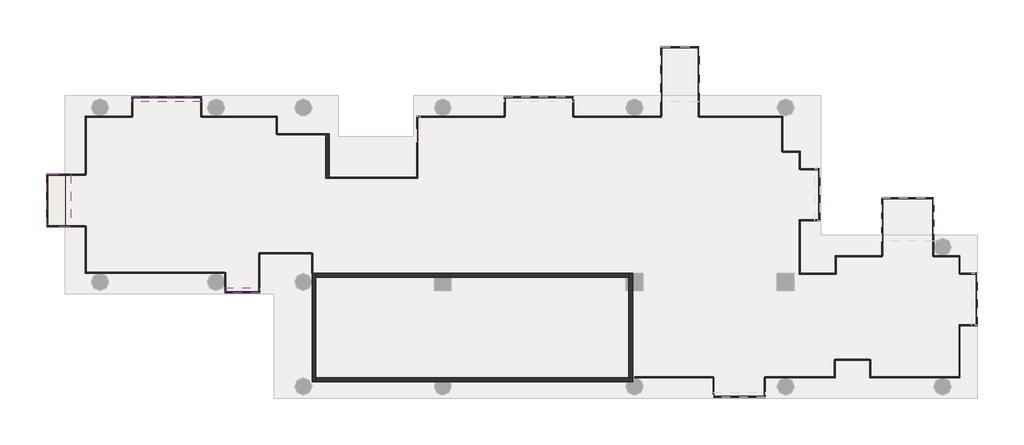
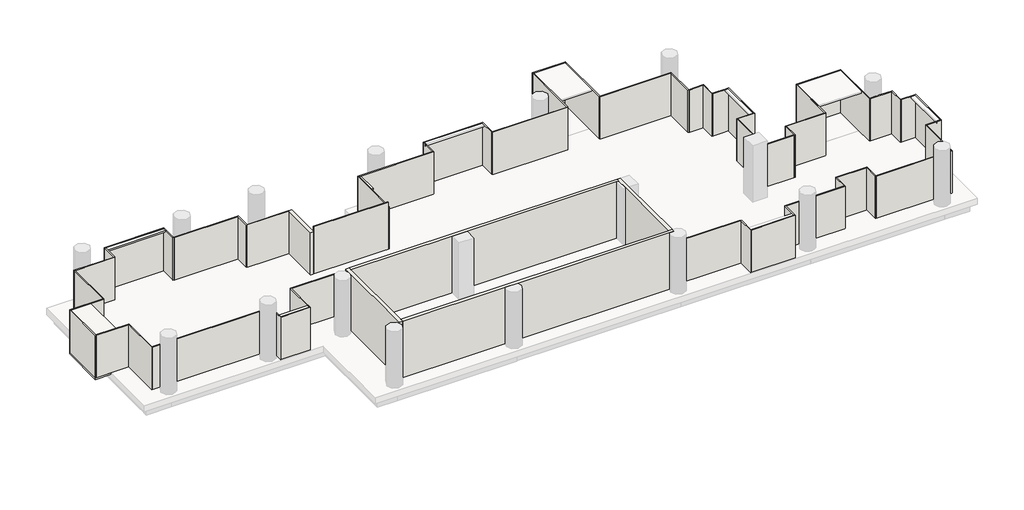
# One storey, part 1 of 2: 62 walls, 5 slabs.
"""IFC4 building model written with IfcOpenShell, lengths in millimetres."""

from ifc_helpers import new_model, si_unit, frame, origin, place, context, project, spatial, polyline, outline, extrude, faceted_brep, element, save

model = new_model("IFC4")

# Units and contexts
model_context = context("Model", 3, world=origin())
ifc_project = project(units=[si_unit("LENGTHUNIT", "METRE", prefix="MILLI")], contexts=[model_context])

# Site, building, storey
site = spatial("IfcSite", under=ifc_project)
building = spatial("IfcBuilding", under=site)
storey = spatial("IfcBuildingStorey", under=building, Name="TW-L 09", Elevation=31599.9999686)

# Slabs
placement = place(None, origin())
element("IfcSlab", 1, ObjectType="AJN-ARC-SLAB-10cm", at=placement, inside=storey, context=model_context, shape_type="SweptSolid", body=[
    extrude(outline(polyline([(100300.0, 33150.0), (99347.1743518, 33150.0), (99347.1743518, 35850.0), (100300.0, 35850.0), (100300.0, 33150.0)])), frame((0.0, 0.0, 31499.9999686), z_axis=(0.0, 0.0, 1.0), x_axis=(1.0, 0.0, 0.0)), (0.0, 0.0, 1.0), 100.0),
])
element("IfcSlab", 2, ObjectType="AJN-ARC-SLAB-10cm", at=placement, inside=storey, context=model_context, shape_type="SweptSolid", body=[
    extrude(outline(polyline([(100600.0, 33150.0), (99347.1743518, 33150.0), (99347.1743518, 35850.0), (100600.0, 35850.0), (100600.0, 33150.0)])), frame((0.0, 0.0, 34199.9999686), z_axis=(0.0, 0.0, 1.0), x_axis=(1.0, 0.0, 0.0)), (0.0, 0.0, 1.0), 100.0),
])
element("IfcSlab", 3, ObjectType="AJN-ARC-SLAB-10cm", at=placement, inside=storey, context=model_context, shape_type="SweptSolid", body=[
    extrude(outline(polyline([(107350.0, 39600.0), (103750.0, 39600.0), (103750.0, 39850.0), (107350.0, 39850.0), (107350.0, 39600.0)])), frame((0.0, 0.0, 34199.9999686), z_axis=(0.0, 0.0, 1.0), x_axis=(1.0, 0.0, 0.0)), (0.0, 0.0, 1.0), 100.0),
])
element("IfcSlab", 4, ObjectType="AJN-ARC-SLAB-10cm", at=placement, inside=storey, context=model_context, shape_type="SweptSolid", body=[
    extrude(outline(polyline([(110347.1743518, 29750.0), (108547.1743518, 29750.0), (108547.1743518, 30000.0), (110347.1743518, 30000.0), (110347.1743518, 29750.0)])), frame((0.0, 0.0, 34199.9999686), z_axis=(0.0, 0.0, 1.0), x_axis=(1.0, 0.0, 0.0)), (0.0, 0.0, 1.0), 100.0),
])
element("IfcSlab", 5, ObjectType="AJN-ARC-SLAB-10cm", at=placement, inside=storey, context=model_context, shape_type="SweptSolid", body=[
    extrude(outline(polyline([(118600.0, 37500.0), (118450.0, 37500.0), (118450.0, 38850.0), (118600.0, 38850.0), (118600.0, 37500.0)])), frame((0.0, 0.0, 34199.9999686), z_axis=(0.0, 0.0, 1.0), x_axis=(1.0, 0.0, 0.0)), (0.0, 0.0, 1.0), 100.0),
])

# Walls
element("IfcWall", 6, ObjectType="AJN-ARC-CONCRETE WALL-20cm", at=placement, inside=storey, context=model_context, shape_type="Brep", body=[
    faceted_brep([(113050.0, 30750.0, 35199.9999686), (113050.0, 30750.0, 31599.9999686), (113050.0, 25150.0, 31599.9999686), (113050.0, 25150.0, 35199.9999686), (113250.0, 30750.0, 31599.9999686), (113250.0, 30750.0, 35199.9999686), (113250.0, 30550.0, 35199.9999686), (113250.0, 25350.0, 35199.9999686), (113250.0, 25150.0, 35199.9999686), (113250.0, 25150.0, 31599.9999686), (113250.0, 25350.0, 31599.9999686), (113250.0, 30550.0, 31599.9999686), (113097.1743518, 30750.0, 31599.9999686)], [[[0, 1, 2, 3]], [[4, 5, 6, 7, 8, 9, 10, 11]], [[2, 1, 12, 4, 11, 10, 9]], [[0, 3, 8, 7, 6, 5]], [[3, 2, 9, 8]], [[0, 5, 4, 12, 1]]]),
])
element("IfcWall", 7, ObjectType="AJN-ARC-CONCRETE WALL-20cm", at=placement, inside=storey, context=model_context, shape_type="Brep", body=[
    faceted_brep([(113250.0, 25150.0, 31599.9999686), (119425.8342613, 25150.0, 31599.9999686), (120174.1657387, 25150.0, 31599.9999686), (129325.8342613, 25150.0, 31599.9999686), (129600.0, 25150.0, 31599.9999686), (129600.0, 25150.0, 35199.9999686), (129325.8342613, 25150.0, 35199.9999686), (120174.1657387, 25150.0, 35199.9999686), (119425.8342613, 25150.0, 35199.9999686), (113250.0, 25150.0, 35199.9999686), (113250.0, 25350.0, 31599.9999686), (113250.0, 25350.0, 35199.9999686), (129400.0, 25350.0, 35199.9999686), (129600.0, 25350.0, 35199.9999686), (129600.0, 25350.0, 31599.9999686), (129400.0, 25350.0, 31599.9999686), (129600.0, 25338.7482194, 31599.9999686), (129600.0, 25338.7482194, 35199.9999686)], [[[0, 1, 2, 3, 4, 5, 6, 7, 8, 9]], [[10, 11, 12, 13, 14, 15]], [[4, 3, 2, 1, 0, 10, 15, 14, 16]], [[9, 8, 7, 6, 5, 17, 13, 12, 11]], [[5, 4, 16, 14, 13, 17]], [[0, 9, 11, 10]]]),
])
element("IfcWall", 8, ObjectType="AJN-ARC-CONCRETE WALL-20cm", at=placement, inside=storey, context=model_context, shape_type="Brep", body=[
    faceted_brep([(129600.0, 25350.0, 31599.9999686), (129600.0, 29850.0, 31599.9999686), (129600.0, 30750.0, 31599.9999686), (129600.0, 30750.0, 35199.9999686), (129600.0, 29850.0, 35199.9999686), (129600.0, 25350.0, 35199.9999686), (129400.0, 25350.0, 31599.9999686), (129400.0, 25350.0, 35199.9999686), (129400.0, 29850.0, 35199.9999686), (129400.0, 30550.0, 35199.9999686), (129400.0, 30750.0, 35199.9999686), (129400.0, 30750.0, 31599.9999686), (129400.0, 30550.0, 31599.9999686), (129400.0, 29850.0, 31599.9999686)], [[[0, 1, 2, 3, 4, 5]], [[6, 7, 8, 9, 10, 11, 12, 13]], [[2, 1, 0, 6, 13, 12, 11]], [[5, 4, 3, 10, 9, 8, 7]], [[3, 2, 11, 10]], [[0, 5, 7, 6]]]),
])
element("IfcWall", 9, ObjectType="AJN-ARC-CONCRETE WALL-20cm", at=placement, inside=storey, context=model_context, shape_type="Brep", body=[
    faceted_brep([(129400.0, 30750.0, 31599.9999686), (113250.0, 30750.0, 31599.9999686), (113250.0, 30750.0, 35199.9999686), (129400.0, 30750.0, 35199.9999686), (129400.0, 30550.0, 31599.9999686), (129400.0, 30550.0, 35199.9999686), (129250.0, 30550.0, 35199.9999686), (120250.0, 30550.0, 35199.9999686), (119350.0, 30550.0, 35199.9999686), (113250.0, 30550.0, 35199.9999686), (113250.0, 30550.0, 31599.9999686), (119350.0, 30550.0, 31599.9999686), (120250.0, 30550.0, 31599.9999686), (129250.0, 30550.0, 31599.9999686)], [[[0, 1, 2, 3]], [[4, 5, 6, 7, 8, 9, 10, 11, 12, 13]], [[1, 0, 4, 13, 12, 11, 10]], [[3, 2, 9, 8, 7, 6, 5]], [[0, 3, 5, 4]], [[1, 10, 9, 2]]]),
])
element("IfcWall", 10, ObjectType="AJN-ARC-CONCRETE WALL-20cm", at=placement, inside=storey, context=model_context, shape_type="Brep", body=[
    faceted_brep([(113950.0, 35650.0, 31599.9999686), (113950.0, 37950.0, 31599.9999686), (113950.0, 37950.0, 34299.9999686), (113950.0, 35650.0, 34299.9999686), (113750.0, 35650.0, 31599.9999686), (113750.0, 35650.0, 34299.9999686), (113750.0, 37900.0, 34299.9999686), (113750.0, 37950.0, 34299.9999686), (113750.0, 37950.0, 31599.9999686), (113750.0, 37900.0, 31599.9999686)], [[[0, 1, 2, 3]], [[4, 5, 6, 7, 8, 9]], [[1, 0, 4, 9, 8]], [[3, 2, 7, 6, 5]], [[0, 3, 5, 4]], [[2, 1, 8, 7]]]),
])
element("IfcWall", 11, ObjectType="AJN-ARC-GLASS-50mm", at=placement, inside=storey, context=model_context, shape_type="SweptSolid", body=[
    extrude(outline(polyline([(111250.0, 37950.0), (113750.0, 37950.0), (113750.0, 37900.0), (111250.0, 37900.0), (111250.0, 37950.0)])), frame((0.0, 0.0, 31599.9999686), z_axis=(0.0, 0.0, 1.0), x_axis=(1.0, 0.0, 0.0)), (0.0, 0.0, 1.0), 2700.0),
])
element("IfcWall", 12, ObjectType="AJN-ARC-GLASS-50mm", at=placement, inside=storey, context=model_context, shape_type="Brep", body=[
    faceted_brep([(111250.0, 37925.0, 31599.9999686), (111250.0, 38850.0003404, 31599.9999686), (111250.0, 38850.0003404, 34299.9999686), (111250.0, 37925.0, 34299.9999686), (111200.0, 37925.0, 31599.9999686), (111200.0, 37925.0, 34299.9999686), (111200.0, 38800.000336, 34299.9999686), (111200.0, 38850.000336, 34299.9999686), (111200.0, 38850.000336, 31599.9999686), (111200.0, 38800.000336, 31599.9999686)], [[[0, 1, 2, 3]], [[4, 5, 6, 7, 8, 9]], [[1, 0, 4, 9, 8]], [[3, 2, 7, 6, 5]], [[0, 3, 5, 4]], [[2, 1, 8, 7]]]),
])
element("IfcWall", 13, ObjectType="AJN-ARC-GLASS-50mm", at=placement, inside=storey, context=model_context, shape_type="SweptSolid", body=[
    extrude(outline(polyline([(107350.0, 38850.0), (111200.0, 38850.000336), (111200.0, 38800.000336), (107350.0000044, 38800.0), (107350.0, 38850.0)])), frame((0.0, 0.0, 31599.9999686), z_axis=(0.0, 0.0, 1.0), x_axis=(1.0, 0.0, 0.0)), (0.0, 0.0, 1.0), 2700.0),
])
element("IfcWall", 14, ObjectType="AJN-ARC-GLASS-50mm", at=placement, inside=storey, context=model_context, shape_type="Brep", body=[
    faceted_brep([(107350.0, 38824.9999978, 31599.9999686), (107350.0, 39850.0, 31599.9999686), (107350.0, 39850.0, 34299.9999686), (107350.0, 38824.9999978, 34299.9999686), (107300.0, 38824.9999978, 31599.9999686), (107300.0, 38824.9999978, 34299.9999686), (107300.0, 39800.0, 34299.9999686), (107300.0, 39850.0, 34299.9999686), (107300.0, 39850.0, 31599.9999686), (107300.0, 39800.0, 31599.9999686)], [[[0, 1, 2, 3]], [[4, 5, 6, 7, 8, 9]], [[1, 0, 4, 9, 8]], [[3, 2, 7, 6, 5]], [[0, 3, 5, 4]], [[2, 1, 8, 7]]]),
])
element("IfcWall", 15, ObjectType="AJN-ARC-GLASS-50mm", at=placement, inside=storey, context=model_context, shape_type="Brep", body=[
    faceted_brep([(107300.0, 39850.0, 31599.9999686), (103750.0, 39850.0, 31599.9999686), (103750.0, 39850.0, 34299.9999686), (107300.0, 39850.0, 34299.9999686), (107300.0, 39800.0, 31599.9999686), (107300.0, 39800.0, 34299.9999686), (103800.0, 39800.0, 34299.9999686), (103750.0, 39800.0, 34299.9999686), (103750.0, 39800.0, 31599.9999686), (103800.0, 39800.0, 31599.9999686)], [[[0, 1, 2, 3]], [[4, 5, 6, 7, 8, 9]], [[1, 0, 4, 9, 8]], [[3, 2, 7, 6, 5]], [[2, 1, 8, 7]], [[0, 3, 5, 4]]]),
])
element("IfcWall", 16, ObjectType="AJN-ARC-GLASS-50mm", at=placement, inside=storey, context=model_context, shape_type="SweptSolid", body=[
    extrude(outline(polyline([(103750.0, 38850.0), (103750.0, 39800.0), (103800.0, 39800.0), (103800.0, 38850.0), (103750.0, 38850.0)])), frame((0.0, 0.0, 31599.9999686), z_axis=(0.0, 0.0, 1.0), x_axis=(1.0, 0.0, 0.0)), (0.0, 0.0, 1.0), 2700.0),
])
element("IfcWall", 17, ObjectType="AJN-ARC-GLASS-50mm", at=placement, inside=storey, context=model_context, shape_type="Brep", body=[
    faceted_brep([(103775.000012, 38849.999988, 31599.9999686), (101347.1743518, 38850.001152, 31599.9999686), (101347.1743518, 38850.001152, 34299.9999686), (103775.000012, 38849.999988, 34299.9999686), (103774.999988, 38799.999988, 31599.9999686), (103774.999988, 38799.999988, 34299.9999686), (101397.1743518, 38800.001128, 34299.9999686), (101347.1743518, 38800.001152, 34299.9999686), (101347.1743518, 38800.001152, 31599.9999686), (101397.1743518, 38800.001128, 31599.9999686)], [[[0, 1, 2, 3]], [[4, 5, 6, 7, 8, 9]], [[1, 0, 4, 9, 8]], [[3, 2, 7, 6, 5]], [[0, 3, 5, 4]], [[2, 1, 8, 7]]]),
])
element("IfcWall", 18, ObjectType="AJN-ARC-GLASS-50mm", at=placement, inside=storey, context=model_context, shape_type="SweptSolid", body=[
    extrude(outline(polyline([(101347.1743518, 35850.0), (101347.1743518, 38800.001152), (101397.1743518, 38800.001128), (101397.1743518, 35850.0), (101347.1743518, 35850.0)])), frame((0.0, 0.0, 31599.9999686), z_axis=(0.0, 0.0, 1.0), x_axis=(1.0, 0.0, 0.0)), (0.0, 0.0, 1.0), 2700.0),
])
element("IfcWall", 19, ObjectType="AJN-ARC-GLASS-50mm", at=placement, inside=storey, context=model_context, shape_type="Brep", body=[
    faceted_brep([(101372.1743518, 35850.0, 31599.9999686), (99347.1743518, 35850.0, 31599.9999686), (99347.1743518, 35850.0, 34299.9999686), (101372.1743518, 35850.0, 34299.9999686), (101372.1743518, 35800.0, 31599.9999686), (101372.1743518, 35800.0, 34299.9999686), (99397.1743518, 35800.0, 34299.9999686), (99347.1743518, 35800.0, 34299.9999686), (99347.1743518, 35800.0, 31599.9999686), (99397.1743518, 35800.0, 31599.9999686)], [[[0, 1, 2, 3]], [[4, 5, 6, 7, 8, 9]], [[1, 0, 4, 9, 8]], [[3, 2, 7, 6, 5]], [[0, 3, 5, 4]], [[2, 1, 8, 7]]]),
])
element("IfcWall", 20, ObjectType="AJN-ARC-GLASS-50mm", at=placement, inside=storey, context=model_context, shape_type="Brep", body=[
    faceted_brep([(99347.1743518, 35800.0, 31599.9999686), (99347.1743518, 33150.0, 31599.9999686), (99347.1743518, 33150.0, 34299.9999686), (99347.1743518, 35800.0, 34299.9999686), (99397.1743518, 35800.0, 31599.9999686), (99397.1743518, 35800.0, 34299.9999686), (99397.1743518, 33200.0, 34299.9999686), (99397.1743518, 33150.0, 34299.9999686), (99397.1743518, 33150.0, 31599.9999686), (99397.1743518, 33200.0, 31599.9999686)], [[[0, 1, 2, 3]], [[4, 5, 6, 7, 8, 9]], [[1, 0, 4, 9, 8]], [[3, 2, 7, 6, 5]], [[2, 1, 8, 7]], [[0, 3, 5, 4]]]),
])
element("IfcWall", 21, ObjectType="AJN-ARC-GLASS-50mm", at=placement, inside=storey, context=model_context, shape_type="SweptSolid", body=[
    extrude(outline(polyline([(101347.1743518, 33150.0), (99397.1743518, 33150.0), (99397.1743518, 33200.0), (101347.1743518, 33200.0), (101347.1743518, 33150.0)])), frame((0.0, 0.0, 31599.9999686), z_axis=(0.0, 0.0, 1.0), x_axis=(1.0, 0.0, 0.0)), (0.0, 0.0, 1.0), 2700.0),
])
element("IfcWall", 22, ObjectType="AJN-ARC-GLASS-50mm", at=placement, inside=storey, context=model_context, shape_type="Brep", body=[
    faceted_brep([(101347.1743518, 33175.0, 31599.9999686), (101347.1743518, 30750.0, 31599.9999686), (101347.1743518, 30750.0, 34299.9999686), (101347.1743518, 33175.0, 34299.9999686), (101397.1743518, 33175.0, 31599.9999686), (101397.1743518, 33175.0, 34299.9999686), (101397.1743518, 30800.0, 34299.9999686), (101397.1743518, 30750.0, 34299.9999686), (101397.1743518, 30750.0, 31599.9999686), (101397.1743518, 30800.0, 31599.9999686)], [[[0, 1, 2, 3]], [[4, 5, 6, 7, 8, 9]], [[1, 0, 4, 9, 8]], [[3, 2, 7, 6, 5]], [[0, 3, 5, 4]], [[2, 1, 8, 7]]]),
])
element("IfcWall", 23, ObjectType="AJN-ARC-GLASS-50mm", at=placement, inside=storey, context=model_context, shape_type="SweptSolid", body=[
    extrude(outline(polyline([(108547.1743518, 30750.0), (101397.1743518, 30750.0), (101397.1743518, 30800.0), (108547.1743518, 30800.0), (108547.1743518, 30750.0)])), frame((0.0, 0.0, 31599.9999686), z_axis=(0.0, 0.0, 1.0), x_axis=(1.0, 0.0, 0.0)), (0.0, 0.0, 1.0), 2700.0),
])
element("IfcWall", 24, ObjectType="AJN-ARC-GLASS-50mm", at=placement, inside=storey, context=model_context, shape_type="Brep", body=[
    faceted_brep([(108547.1743518, 30775.0, 31599.9999686), (108547.1743518, 30350.3497671, 31599.9999686), (108547.1743518, 30249.6502329, 31599.9999686), (108547.1743518, 29750.0, 31599.9999686), (108547.1743518, 29750.0, 34299.9999686), (108547.1743518, 30249.6502329, 34299.9999686), (108547.1743518, 30350.3497671, 34299.9999686), (108547.1743518, 30775.0, 34299.9999686), (108597.1743518, 30775.0, 31599.9999686), (108597.1743518, 30775.0, 34299.9999686), (108597.1743518, 29800.0, 34299.9999686), (108597.1743518, 29750.0, 34299.9999686), (108597.1743518, 29750.0, 31599.9999686), (108597.1743518, 29800.0, 31599.9999686)], [[[0, 1, 2, 3, 4, 5, 6, 7]], [[8, 9, 10, 11, 12, 13]], [[3, 2, 1, 0, 8, 13, 12]], [[7, 6, 5, 4, 11, 10, 9]], [[0, 7, 9, 8]], [[4, 3, 12, 11]]]),
])
element("IfcWall", 25, ObjectType="AJN-ARC-GLASS-50mm", at=placement, inside=storey, context=model_context, shape_type="Brep", body=[
    faceted_brep([(108597.1743518, 29750.0, 31599.9999686), (110347.1743518, 29750.0, 31599.9999686), (110347.1743518, 29750.0, 34299.9999686), (108597.1743518, 29750.0, 34299.9999686), (108597.1743518, 29800.0, 31599.9999686), (108597.1743518, 29800.0, 34299.9999686), (110297.1743518, 29800.0, 34299.9999686), (110347.1743518, 29800.0, 34299.9999686), (110347.1743518, 29800.0, 31599.9999686), (110297.1743518, 29800.0, 31599.9999686)], [[[0, 1, 2, 3]], [[4, 5, 6, 7, 8, 9]], [[1, 0, 4, 9, 8]], [[3, 2, 7, 6, 5]], [[2, 1, 8, 7]], [[0, 3, 5, 4]]]),
])
element("IfcWall", 26, ObjectType="AJN-ARC-GLASS-50mm", at=placement, inside=storey, context=model_context, shape_type="SweptSolid", body=[
    extrude(outline(polyline([(110347.1743518, 31750.0), (110347.1743518, 29800.0), (110297.1743518, 29800.0), (110297.1743518, 31750.0), (110347.1743518, 31750.0)])), frame((0.0, 0.0, 31599.9999686), z_axis=(0.0, 0.0, 1.0), x_axis=(1.0, 0.0, 0.0)), (0.0, 0.0, 1.0), 2700.0),
])
element("IfcWall", 27, ObjectType="AJN-ARC-GLASS-50mm", at=placement, inside=storey, context=model_context, shape_type="SweptSolid", body=[
    extrude(outline(polyline([(113047.1743518, 31750.0), (110322.1743518, 31750.0), (110322.1743518, 31800.0), (113047.1743518, 31800.0), (113047.1743518, 31750.0)])), frame((0.0, 0.0, 31599.9999686), z_axis=(0.0, 0.0, 1.0), x_axis=(1.0, 0.0, 0.0)), (0.0, 0.0, 1.0), 2700.0),
])
element("IfcWall", 28, ObjectType="AJN-ARC-GLASS-50mm", at=placement, inside=storey, context=model_context, shape_type="Brep", body=[
    faceted_brep([(113047.1743518, 31775.0, 31599.9999686), (113047.1743518, 30750.0, 31599.9999686), (113047.1743518, 30750.0, 34299.9999686), (113047.1743518, 31775.0, 34299.9999686), (113097.1743518, 31775.0, 31599.9999686), (113097.1743518, 31775.0, 34299.9999686), (113097.1743518, 30750.0, 34299.9999686), (113097.1743518, 30750.0, 31599.9999686), (113050.0, 30750.0, 31599.9999686)], [[[0, 1, 2, 3]], [[4, 5, 6, 7]], [[1, 0, 4, 7, 8]], [[3, 2, 6, 5]], [[0, 3, 5, 4]], [[2, 1, 8, 7, 6]]]),
])
element("IfcWall", 29, ObjectType="AJN-ARC-GLASS-50mm", at=placement, inside=storey, context=model_context, shape_type="Brep", body=[
    faceted_brep([(138250.0, 30700.0, 31599.9999686), (138250.0, 30750.0, 31599.9999686), (138250.0, 33450.0, 31599.9999686), (138250.0, 33450.0, 34299.9999686), (138250.0, 30750.0, 34299.9999686), (138250.0, 30700.0, 34299.9999686), (138200.0, 30700.0, 31599.9999686), (138200.0, 30700.0, 34299.9999686), (138200.0, 33450.0, 34299.9999686), (138200.0, 33450.0, 31599.9999686)], [[[0, 1, 2, 3, 4, 5]], [[6, 7, 8, 9]], [[2, 1, 0, 6, 9]], [[5, 4, 3, 8, 7]], [[0, 5, 7, 6]], [[3, 2, 9, 8]]]),
])
element("IfcWall", 30, ObjectType="AJN-ARC-GLASS-50mm", at=placement, inside=storey, context=model_context, shape_type="Brep", body=[
    faceted_brep([(138200.0, 33450.0, 31599.9999686), (138250.0, 33450.0, 31599.9999686), (139250.0, 33450.0, 31599.9999686), (139250.0, 33450.0, 34299.9999686), (138250.0, 33450.0, 34299.9999686), (138200.0, 33450.0, 34299.9999686), (138200.0, 33500.0, 31599.9999686), (138200.0, 33500.0, 34299.9999686), (139200.0, 33500.0, 34299.9999686), (139250.0, 33500.0, 34299.9999686), (139250.0, 33500.0, 31599.9999686), (139200.0, 33500.0, 31599.9999686)], [[[0, 1, 2, 3, 4, 5]], [[6, 7, 8, 9, 10, 11]], [[2, 1, 0, 6, 11, 10]], [[5, 4, 3, 9, 8, 7]], [[3, 2, 10, 9]], [[0, 5, 7, 6]]]),
])
element("IfcWall", 31, ObjectType="AJN-ARC-GLASS-50mm", at=placement, inside=storey, context=model_context, shape_type="Brep", body=[
    faceted_brep([(139250.0, 33500.0, 31599.9999686), (139250.0, 36150.0, 31599.9999686), (139250.0, 36150.0, 34299.9999686), (139250.0, 33500.0, 34299.9999686), (139200.0, 33500.0, 31599.9999686), (139200.0, 33500.0, 34299.9999686), (139200.0, 36100.0, 34299.9999686), (139200.0, 36150.0, 34299.9999686), (139200.0, 36150.0, 31599.9999686), (139200.0, 36100.0, 31599.9999686)], [[[0, 1, 2, 3]], [[4, 5, 6, 7, 8, 9]], [[1, 0, 4, 9, 8]], [[3, 2, 7, 6, 5]], [[2, 1, 8, 7]], [[0, 3, 5, 4]]]),
])
element("IfcWall", 32, ObjectType="AJN-ARC-GLASS-50mm", at=placement, inside=storey, context=model_context, shape_type="SweptSolid", body=[
    extrude(outline(polyline([(138250.0, 36150.0), (139200.0, 36150.0), (139200.0, 36100.0), (138250.0, 36100.0), (138250.0, 36150.0)])), frame((0.0, 0.0, 31599.9999686), z_axis=(0.0, 0.0, 1.0), x_axis=(1.0, 0.0, 0.0)), (0.0, 0.0, 1.0), 2700.0),
])
element("IfcWall", 33, ObjectType="AJN-ARC-GLASS-50mm", at=placement, inside=storey, context=model_context, shape_type="Brep", body=[
    faceted_brep([(138250.0, 36125.0, 31599.9999686), (138250.0, 37050.0, 31599.9999686), (138250.0, 37050.0, 34299.9999686), (138250.0, 36125.0, 34299.9999686), (138200.0, 36125.0, 31599.9999686), (138200.0, 36125.0, 34299.9999686), (138200.0, 37000.0, 34299.9999686), (138200.0, 37050.0, 34299.9999686), (138200.0, 37050.0, 31599.9999686), (138200.0, 37000.0, 31599.9999686)], [[[0, 1, 2, 3]], [[4, 5, 6, 7, 8, 9]], [[1, 0, 4, 9, 8]], [[3, 2, 7, 6, 5]], [[0, 3, 5, 4]], [[2, 1, 8, 7]]]),
])
element("IfcWall", 34, ObjectType="AJN-ARC-GLASS-50mm", at=placement, inside=storey, context=model_context, shape_type="SweptSolid", body=[
    extrude(outline(polyline([(137350.0, 37050.0), (138200.0, 37050.0), (138200.0, 37000.0), (137350.0, 37000.0), (137350.0, 37050.0)])), frame((0.0, 0.0, 31599.9999686), z_axis=(0.0, 0.0, 1.0), x_axis=(1.0, 0.0, 0.0)), (0.0, 0.0, 1.0), 2700.0),
])
element("IfcWall", 35, ObjectType="AJN-ARC-GLASS-50mm", at=placement, inside=storey, context=model_context, shape_type="Brep", body=[
    faceted_brep([(137350.0, 37025.0, 31599.9999686), (137350.0, 38850.0, 31599.9999686), (137350.0, 38850.0, 34299.9999686), (137350.0, 37025.0, 34299.9999686), (137300.0, 37025.0, 31599.9999686), (137300.0, 37025.0, 34299.9999686), (137300.0, 38800.0, 34299.9999686), (137300.0, 38850.0, 34299.9999686), (137300.0, 38850.0, 31599.9999686), (137300.0, 38800.0, 31599.9999686)], [[[0, 1, 2, 3]], [[4, 5, 6, 7, 8, 9]], [[1, 0, 4, 9, 8]], [[3, 2, 7, 6, 5]], [[0, 3, 5, 4]], [[2, 1, 8, 7]]]),
])
element("IfcWall", 36, ObjectType="AJN-ARC-GLASS-50mm", at=placement, inside=storey, context=model_context, shape_type="SweptSolid", body=[
    extrude(outline(polyline([(133050.0, 38850.0), (137300.0, 38850.0), (137300.0, 38800.0), (133050.0, 38800.0), (133050.0, 38850.0)])), frame((0.0, 0.0, 31599.9999686), z_axis=(0.0, 0.0, 1.0), x_axis=(1.0, 0.0, 0.0)), (0.0, 0.0, 1.0), 2700.0),
])
element("IfcWall", 37, ObjectType="AJN-ARC-GLASS-50mm", at=placement, inside=storey, context=model_context, shape_type="Brep", body=[
    faceted_brep([(133050.0, 38825.0, 31599.9999686), (133050.0, 42450.0, 31599.9999686), (133050.0, 42450.0, 34299.9999686), (133050.0, 38825.0, 34299.9999686), (133000.0, 38825.0, 31599.9999686), (133000.0, 38825.0, 34299.9999686), (133000.0, 42400.0, 34299.9999686), (133000.0, 42450.0, 34299.9999686), (133000.0, 42450.0, 31599.9999686), (133000.0, 42400.0, 31599.9999686)], [[[0, 1, 2, 3]], [[4, 5, 6, 7, 8, 9]], [[1, 0, 4, 9, 8]], [[3, 2, 7, 6, 5]], [[0, 3, 5, 4]], [[2, 1, 8, 7]]]),
])
element("IfcWall", 38, ObjectType="AJN-ARC-GLASS-50mm", at=placement, inside=storey, context=model_context, shape_type="Brep", body=[
    faceted_brep([(133000.0, 42450.0, 31599.9999686), (131050.0, 42450.0, 31599.9999686), (131050.0, 42450.0, 34299.9999686), (133000.0, 42450.0, 34299.9999686), (133000.0, 42400.0, 31599.9999686), (133000.0, 42400.0, 34299.9999686), (131100.0, 42400.0, 34299.9999686), (131050.0, 42400.0, 34299.9999686), (131050.0, 42400.0, 31599.9999686), (131100.0, 42400.0, 31599.9999686)], [[[0, 1, 2, 3]], [[4, 5, 6, 7, 8, 9]], [[1, 0, 4, 9, 8]], [[3, 2, 7, 6, 5]], [[2, 1, 8, 7]], [[0, 3, 5, 4]]]),
])
element("IfcWall", 39, ObjectType="AJN-ARC-GLASS-50mm", at=placement, inside=storey, context=model_context, shape_type="SweptSolid", body=[
    extrude(outline(polyline([(131050.0, 38850.0), (131050.0, 42400.0), (131100.0, 42400.0), (131100.0, 38850.0), (131050.0, 38850.0)])), frame((0.0, 0.0, 31599.9999686), z_axis=(0.0, 0.0, 1.0), x_axis=(1.0, 0.0, 0.0)), (0.0, 0.0, 1.0), 2700.0),
])
element("IfcWall", 40, ObjectType="AJN-ARC-GLASS-50mm", at=placement, inside=storey, context=model_context, shape_type="SweptSolid", body=[
    extrude(outline(polyline([(126563.0639015, 38850.0), (131075.0, 38850.0), (131075.0, 38800.0), (126563.0639015, 38800.0), (126563.0639015, 38850.0)])), frame((0.0, 0.0, 31599.9999686), z_axis=(0.0, 0.0, 1.0), x_axis=(1.0, 0.0, 0.0)), (0.0, 0.0, 1.0), 2700.0),
])
element("IfcWall", 41, ObjectType="AJN-ARC-GLASS-50mm", at=placement, inside=storey, context=model_context, shape_type="Brep", body=[
    faceted_brep([(126563.0639015, 38825.0, 31599.9999686), (126563.0639015, 39850.0, 31599.9999686), (126563.0639015, 39850.0, 34299.9999686), (126563.0639015, 38825.0, 34299.9999686), (126513.0639015, 38825.0, 31599.9999686), (126513.0639015, 38825.0, 34299.9999686), (126513.0639015, 39800.0, 34299.9999686), (126513.0639015, 39850.0, 34299.9999686), (126513.0639015, 39850.0, 31599.9999686), (126513.0639015, 39800.0, 31599.9999686)], [[[0, 1, 2, 3]], [[4, 5, 6, 7, 8, 9]], [[1, 0, 4, 9, 8]], [[3, 2, 7, 6, 5]], [[0, 3, 5, 4]], [[2, 1, 8, 7]]]),
])
element("IfcWall", 42, ObjectType="AJN-ARC-GLASS-50mm", at=placement, inside=storey, context=model_context, shape_type="Brep", body=[
    faceted_brep([(126513.0639015, 39850.0, 31599.9999686), (122963.0639015, 39850.0, 31599.9999686), (122963.0639015, 39850.0, 34299.9999686), (126513.0639015, 39850.0, 34299.9999686), (126513.0639015, 39800.0, 31599.9999686), (126513.0639015, 39800.0, 34299.9999686), (123013.0639015, 39800.0, 34299.9999686), (122963.0639015, 39800.0, 34299.9999686), (122963.0639015, 39800.0, 31599.9999686), (123013.0639015, 39800.0, 31599.9999686)], [[[0, 1, 2, 3]], [[4, 5, 6, 7, 8, 9]], [[1, 0, 4, 9, 8]], [[3, 2, 7, 6, 5]], [[2, 1, 8, 7]], [[0, 3, 5, 4]]]),
])
element("IfcWall", 43, ObjectType="AJN-ARC-GLASS-50mm", at=placement, inside=storey, context=model_context, shape_type="SweptSolid", body=[
    extrude(outline(polyline([(122963.0639015, 38850.0), (122963.0639015, 39800.0), (123013.0639015, 39800.0), (123013.0639015, 38850.0), (122963.0639015, 38850.0)])), frame((0.0, 0.0, 31599.9999686), z_axis=(0.0, 0.0, 1.0), x_axis=(1.0, 0.0, 0.0)), (0.0, 0.0, 1.0), 2700.0),
])
element("IfcWall", 44, ObjectType="AJN-ARC-GLASS-50mm", at=placement, inside=storey, context=model_context, shape_type="Brep", body=[
    faceted_brep([(122988.0639015, 38850.0, 31599.9999686), (118450.0, 38850.0, 31599.9999686), (118450.0, 38850.0, 34299.9999686), (122988.0639015, 38850.0, 34299.9999686), (122988.0639015, 38800.0, 31599.9999686), (122988.0639015, 38800.0, 34299.9999686), (118500.0, 38800.0, 34299.9999686), (118450.0, 38800.0, 34299.9999686), (118450.0, 38800.0, 31599.9999686), (118500.0, 38800.0, 31599.9999686)], [[[0, 1, 2, 3]], [[4, 5, 6, 7, 8, 9]], [[1, 0, 4, 9, 8]], [[3, 2, 7, 6, 5]], [[0, 3, 5, 4]], [[2, 1, 8, 7]]]),
])
element("IfcWall", 45, ObjectType="AJN-ARC-GLASS-50mm", at=placement, inside=storey, context=model_context, shape_type="SweptSolid", body=[
    extrude(outline(polyline([(133750.3417807, 25350.0), (129714.068817, 25350.0), (129714.068817, 25400.0), (133750.3417807, 25400.0), (133750.3417807, 25350.0)])), frame((0.0, 0.0, 31599.9999686), z_axis=(0.0, 0.0, 1.0), x_axis=(1.0, 0.0, 0.0)), (0.0, 0.0, 1.0), 2700.0),
])
element("IfcWall", 46, ObjectType="AJN-ARC-GLASS-50mm", at=placement, inside=storey, context=model_context, shape_type="Brep", body=[
    faceted_brep([(133750.3417807, 25375.0, 31599.9999686), (133750.3417807, 24350.0, 31599.9999686), (133750.3417807, 24350.0, 34299.9999686), (133750.3417807, 25375.0, 34299.9999686), (133800.3417807, 25375.0, 31599.9999686), (133800.3417807, 25375.0, 34299.9999686), (133800.3417807, 24400.0, 34299.9999686), (133800.3417807, 24350.0, 34299.9999686), (133800.3417807, 24350.0, 31599.9999686), (133800.3417807, 24400.0, 31599.9999686)], [[[0, 1, 2, 3]], [[4, 5, 6, 7, 8, 9]], [[1, 0, 4, 9, 8]], [[3, 2, 7, 6, 5]], [[0, 3, 5, 4]], [[2, 1, 8, 7]]]),
])
element("IfcWall", 47, ObjectType="AJN-ARC-GLASS-50mm", at=placement, inside=storey, context=model_context, shape_type="Brep", body=[
    faceted_brep([(133800.3417807, 24350.0, 31599.9999686), (136450.3417807, 24350.0, 31599.9999686), (136450.3417807, 24350.0, 34299.9999686), (133800.3417807, 24350.0, 34299.9999686), (133800.3417807, 24400.0, 31599.9999686), (133800.3417807, 24400.0, 34299.9999686), (136400.3417807, 24400.0, 34299.9999686), (136450.3417807, 24400.0, 34299.9999686), (136450.3417807, 24400.0, 31599.9999686), (136400.3417807, 24400.0, 31599.9999686)], [[[0, 1, 2, 3]], [[4, 5, 6, 7, 8, 9]], [[1, 0, 4, 9, 8]], [[3, 2, 7, 6, 5]], [[2, 1, 8, 7]], [[0, 3, 5, 4]]]),
])
element("IfcWall", 48, ObjectType="AJN-ARC-GLASS-50mm", at=placement, inside=storey, context=model_context, shape_type="SweptSolid", body=[
    extrude(outline(polyline([(136450.3417807, 25350.0), (136450.3417807, 24400.0), (136400.3417807, 24400.0), (136400.3417807, 25350.0), (136450.3417807, 25350.0)])), frame((0.0, 0.0, 31599.9999686), z_axis=(0.0, 0.0, 1.0), x_axis=(1.0, 0.0, 0.0)), (0.0, 0.0, 1.0), 2700.0),
])
element("IfcWall", 49, ObjectType="AJN-ARC-GLASS-50mm", at=placement, inside=storey, context=model_context, shape_type="Brep", body=[
    faceted_brep([(136425.3417807, 25350.0, 31599.9999686), (140050.1695387, 25350.0, 31599.9999686), (140050.1695387, 25350.0, 34299.9999686), (136425.3417807, 25350.0, 34299.9999686), (136425.3417807, 25400.0, 31599.9999686), (136425.3417807, 25400.0, 34299.9999686), (140000.1695387, 25400.0, 34299.9999686), (140050.1695387, 25400.0, 34299.9999686), (140050.1695387, 25400.0, 31599.9999686), (140000.1695387, 25400.0, 31599.9999686)], [[[0, 1, 2, 3]], [[4, 5, 6, 7, 8, 9]], [[1, 0, 4, 9, 8]], [[3, 2, 7, 6, 5]], [[0, 3, 5, 4]], [[2, 1, 8, 7]]]),
])
element("IfcWall", 50, ObjectType="AJN-ARC-GLASS-50mm", at=placement, inside=storey, context=model_context, shape_type="SweptSolid", body=[
    extrude(outline(polyline([(140050.1695387, 26250.0), (140050.1695387, 25400.0), (140000.1695387, 25400.0), (140000.1695387, 26250.0), (140050.1695387, 26250.0)])), frame((0.0, 0.0, 31599.9999686), z_axis=(0.0, 0.0, 1.0), x_axis=(1.0, 0.0, 0.0)), (0.0, 0.0, 1.0), 2700.0),
])
element("IfcWall", 51, ObjectType="AJN-ARC-GLASS-50mm", at=placement, inside=storey, context=model_context, shape_type="SweptSolid", body=[
    extrude(outline(polyline([(141850.1695387, 26250.0), (140025.1695387, 26250.0), (140025.1695387, 26300.0), (141850.1695387, 26300.0), (141850.1695387, 26250.0)])), frame((0.0, 0.0, 31599.9999686), z_axis=(0.0, 0.0, 1.0), x_axis=(1.0, 0.0, 0.0)), (0.0, 0.0, 1.0), 2700.0),
])
element("IfcWall", 52, ObjectType="AJN-ARC-GLASS-50mm", at=placement, inside=storey, context=model_context, shape_type="Brep", body=[
    faceted_brep([(141850.1695387, 26275.0, 31599.9999686), (141850.1695387, 25350.0, 31599.9999686), (141850.1695387, 25350.0, 34299.9999686), (141850.1695387, 26275.0, 34299.9999686), (141900.1695387, 26275.0, 31599.9999686), (141900.1695387, 26275.0, 34299.9999686), (141900.1695387, 25400.0, 34299.9999686), (141900.1695387, 25350.0, 34299.9999686), (141900.1695387, 25350.0, 31599.9999686), (141900.1695387, 25400.0, 31599.9999686)], [[[0, 1, 2, 3]], [[4, 5, 6, 7, 8, 9]], [[1, 0, 4, 9, 8]], [[3, 2, 7, 6, 5]], [[0, 3, 5, 4]], [[2, 1, 8, 7]]]),
])
element("IfcWall", 53, ObjectType="AJN-ARC-GLASS-50mm", at=placement, inside=storey, context=model_context, shape_type="Brep", body=[
    faceted_brep([(141900.1695387, 25350.0, 31599.9999686), (146497.681474, 25350.0, 31599.9999686), (146497.681474, 25350.0, 34299.9999686), (141900.1695387, 25350.0, 34299.9999686), (141900.1695387, 25400.0, 31599.9999686), (141900.1695387, 25400.0, 34299.9999686), (146447.681474, 25400.0, 34299.9999686), (146497.681474, 25400.0, 34299.9999686), (146497.681474, 25400.0, 31599.9999686), (146447.681474, 25400.0, 31599.9999686)], [[[0, 1, 2, 3]], [[4, 5, 6, 7, 8, 9]], [[1, 0, 4, 9, 8]], [[3, 2, 7, 6, 5]], [[2, 1, 8, 7]], [[0, 3, 5, 4]]]),
])
element("IfcWall", 54, ObjectType="AJN-ARC-GLASS-50mm", at=placement, inside=storey, context=model_context, shape_type="SweptSolid", body=[
    extrude(outline(polyline([(146497.681474, 28050.7088526), (146497.681474, 25400.0), (146447.681474, 25400.0), (146447.681474, 28050.7088526), (146497.681474, 28050.7088526)])), frame((0.0, 0.0, 31599.9999686), z_axis=(0.0, 0.0, 1.0), x_axis=(1.0, 0.0, 0.0)), (0.0, 0.0, 1.0), 2700.0),
])
element("IfcWall", 55, ObjectType="AJN-ARC-GLASS-50mm", at=placement, inside=storey, context=model_context, shape_type="Brep", body=[
    faceted_brep([(146472.681474, 28050.7088526, 31599.9999686), (147397.681474, 28050.7088526, 31599.9999686), (147397.681474, 28050.7088526, 34299.9999686), (146472.681474, 28050.7088526, 34299.9999686), (146472.681474, 28100.7088526, 31599.9999686), (146472.681474, 28100.7088526, 34299.9999686), (147347.681474, 28100.7088526, 34299.9999686), (147397.681474, 28100.7088526, 34299.9999686), (147397.681474, 28100.7088526, 31599.9999686), (147347.681474, 28100.7088526, 31599.9999686)], [[[0, 1, 2, 3]], [[4, 5, 6, 7, 8, 9]], [[1, 0, 4, 9, 8]], [[3, 2, 7, 6, 5]], [[0, 3, 5, 4]], [[2, 1, 8, 7]]]),
])
element("IfcWall", 56, ObjectType="AJN-ARC-GLASS-50mm", at=placement, inside=storey, context=model_context, shape_type="Brep", body=[
    faceted_brep([(147397.681474, 28100.7088526, 31599.9999686), (147397.681474, 30750.7088526, 31599.9999686), (147397.681474, 30750.7088526, 34299.9999686), (147397.681474, 28100.7088526, 34299.9999686), (147347.681474, 28100.7088526, 31599.9999686), (147347.681474, 28100.7088526, 34299.9999686), (147347.681474, 30700.7088526, 34299.9999686), (147347.681474, 30750.7088526, 34299.9999686), (147347.681474, 30750.7088526, 31599.9999686), (147347.681474, 30700.7088526, 31599.9999686)], [[[0, 1, 2, 3]], [[4, 5, 6, 7, 8, 9]], [[1, 0, 4, 9, 8]], [[3, 2, 7, 6, 5]], [[2, 1, 8, 7]], [[0, 3, 5, 4]]]),
])
element("IfcWall", 57, ObjectType="AJN-ARC-GLASS-50mm", at=placement, inside=storey, context=model_context, shape_type="SweptSolid", body=[
    extrude(outline(polyline([(146497.681474, 30750.7088526), (147347.681474, 30750.7088526), (147347.681474, 30700.7088526), (146497.681474, 30700.7088526), (146497.681474, 30750.7088526)])), frame((0.0, 0.0, 31599.9999686), z_axis=(0.0, 0.0, 1.0), x_axis=(1.0, 0.0, 0.0)), (0.0, 0.0, 1.0), 2700.0),
])
element("IfcWall", 58, ObjectType="AJN-ARC-GLASS-50mm", at=placement, inside=storey, context=model_context, shape_type="Brep", body=[
    faceted_brep([(146497.681474, 30725.7088526, 31599.9999686), (146497.681474, 31651.6593424, 31599.9999686), (146497.681474, 31651.6593424, 34299.9999686), (146497.681474, 30725.7088526, 34299.9999686), (146447.681474, 30725.7088526, 31599.9999686), (146447.681474, 30725.7088526, 34299.9999686), (146447.681474, 31601.6593424, 34299.9999686), (146447.681474, 31651.6593424, 34299.9999686), (146447.681474, 31651.6593424, 31599.9999686), (146447.681474, 31601.6593424, 31599.9999686)], [[[0, 1, 2, 3]], [[4, 5, 6, 7, 8, 9]], [[1, 0, 4, 9, 8]], [[3, 2, 7, 6, 5]], [[0, 3, 5, 4]], [[2, 1, 8, 7]]]),
])
element("IfcWall", 59, ObjectType="AJN-ARC-GLASS-50mm", at=placement, inside=storey, context=model_context, shape_type="Brep", body=[
    faceted_brep([(146447.681474, 31651.6593424, 31599.9999686), (145638.6089983, 31651.6593424, 31599.9999686), (145561.3910017, 31651.6593424, 31599.9999686), (145150.0, 31651.6593424, 31599.9999686), (145150.0, 31651.6593424, 34299.9999686), (145561.3910017, 31651.6593424, 34299.9999686), (145638.6089983, 31651.6593424, 34299.9999686), (146447.681474, 31651.6593424, 34299.9999686), (146447.681474, 31601.6593424, 31599.9999686), (146447.681474, 31601.6593424, 34299.9999686), (145150.0, 31601.6593424, 34299.9999686), (145150.0, 31601.6593424, 31599.9999686)], [[[0, 1, 2, 3, 4, 5, 6, 7]], [[8, 9, 10, 11]], [[3, 2, 1, 0, 8, 11]], [[4, 3, 11, 10]], [[7, 6, 5, 4, 10, 9]], [[0, 7, 9, 8]]]),
])
element("IfcWall", 60, ObjectType="AJN-ARC-GLASS-50mm", at=placement, inside=storey, context=model_context, shape_type="Brep", body=[
    faceted_brep([(145150.0, 31626.6593424, 31599.9999686), (145150.0, 34651.6593424, 31599.9999686), (145150.0, 34651.6593424, 34299.9999686), (145150.0, 31626.6593424, 34299.9999686), (145100.0, 31626.6593424, 31599.9999686), (145100.0, 31626.6593424, 34299.9999686), (145100.0, 34601.6593424, 34299.9999686), (145100.0, 34651.6593424, 34299.9999686), (145100.0, 34651.6593424, 31599.9999686), (145100.0, 34601.6593424, 31599.9999686)], [[[0, 1, 2, 3]], [[4, 5, 6, 7, 8, 9]], [[1, 0, 4, 9, 8]], [[3, 2, 7, 6, 5]], [[0, 3, 5, 4]], [[2, 1, 8, 7]]]),
])
element("IfcWall", 61, ObjectType="AJN-ARC-GLASS-50mm", at=placement, inside=storey, context=model_context, shape_type="Brep", body=[
    faceted_brep([(145100.0, 34651.6593424, 31599.9999686), (142450.0, 34651.6593424, 31599.9999686), (142450.0, 34651.6593424, 34299.9999686), (145100.0, 34651.6593424, 34299.9999686), (145100.0, 34601.6593424, 31599.9999686), (145100.0, 34601.6593424, 34299.9999686), (142500.0, 34601.6593424, 34299.9999686), (142450.0, 34601.6593424, 34299.9999686), (142450.0, 34601.6593424, 31599.9999686), (142500.0, 34601.6593424, 31599.9999686)], [[[0, 1, 2, 3]], [[4, 5, 6, 7, 8, 9]], [[1, 0, 4, 9, 8]], [[3, 2, 7, 6, 5]], [[2, 1, 8, 7]], [[0, 3, 5, 4]]]),
])
element("IfcWall", 62, ObjectType="AJN-ARC-GLASS-50mm", at=placement, inside=storey, context=model_context, shape_type="SweptSolid", body=[
    extrude(outline(polyline([(142450.0, 31651.6593424), (142450.0, 34601.6593424), (142500.0, 34601.6593424), (142500.0, 31651.6593424), (142450.0, 31651.6593424)])), frame((0.0, 0.0, 31599.9999686), z_axis=(0.0, 0.0, 1.0), x_axis=(1.0, 0.0, 0.0)), (0.0, 0.0, 1.0), 2700.0),
])
element("IfcWall", 63, ObjectType="AJN-ARC-GLASS-50mm", at=placement, inside=storey, context=model_context, shape_type="Brep", body=[
    faceted_brep([(142475.0, 31651.6593424, 31599.9999686), (140050.0, 31651.6593424, 31599.9999686), (140050.0, 31651.6593424, 34299.9999686), (142475.0, 31651.6593424, 34299.9999686), (142475.0, 31601.6593424, 31599.9999686), (142475.0, 31601.6593424, 34299.9999686), (140100.0, 31601.6593424, 34299.9999686), (140050.0, 31601.6593424, 34299.9999686), (140050.0, 31601.6593424, 31599.9999686), (140100.0, 31601.6593424, 31599.9999686)], [[[0, 1, 2, 3]], [[4, 5, 6, 7, 8, 9]], [[1, 0, 4, 9, 8]], [[3, 2, 7, 6, 5]], [[0, 3, 5, 4]], [[2, 1, 8, 7]]]),
])
element("IfcWall", 64, ObjectType="AJN-ARC-GLASS-50mm", at=placement, inside=storey, context=model_context, shape_type="Brep", body=[
    faceted_brep([(140050.0, 31601.6593424, 31599.9999686), (140050.0, 30750.0, 31599.9999686), (140050.0, 30700.0, 31599.9999686), (140050.0, 30700.0, 34299.9999686), (140050.0, 30750.0, 34299.9999686), (140050.0, 31601.6593424, 34299.9999686), (140100.0, 31601.6593424, 31599.9999686), (140100.0, 31601.6593424, 34299.9999686), (140100.0, 30700.0, 34299.9999686), (140100.0, 30700.0, 31599.9999686)], [[[0, 1, 2, 3, 4, 5]], [[6, 7, 8, 9]], [[2, 1, 0, 6, 9]], [[5, 4, 3, 8, 7]], [[0, 5, 7, 6]], [[3, 2, 9, 8]]]),
])
element("IfcWall", 65, ObjectType="AJN-ARC-GLASS-50mm", at=placement, inside=storey, context=model_context, shape_type="SweptSolid", body=[
    extrude(outline(polyline([(138250.0, 30750.0), (140050.0, 30750.0), (140050.0, 30700.0), (138250.0, 30700.0), (138250.0, 30750.0)])), frame((0.0, 0.0, 31599.9999686), z_axis=(0.0, 0.0, 1.0), x_axis=(1.0, 0.0, 0.0)), (0.0, 0.0, 1.0), 2700.0),
])
element("IfcWall", 66, ObjectType="AJN-ARC-GLASS-50mm", at=placement, inside=storey, context=model_context, shape_type="SweptSolid", body=[
    extrude(outline(polyline([(118450.0, 35650.0), (118450.0, 38800.0), (118500.0, 38800.0), (118500.0, 35650.0), (118450.0, 35650.0)])), frame((0.0, 0.0, 31599.9999686), z_axis=(0.0, 0.0, 1.0), x_axis=(1.0, 0.0, 0.0)), (0.0, 0.0, 1.0), 2700.0),
])
element("IfcWall", 67, ObjectType="AJN-ARC-GLASS-50mm", at=placement, inside=storey, context=model_context, shape_type="SweptSolid", body=[
    extrude(outline(polyline([(118450.0, 35650.0), (113950.0, 35650.0), (113950.0, 35700.0), (118450.0, 35700.0), (118450.0, 35650.0)])), frame((0.0, 0.0, 31599.9999686), z_axis=(0.0, 0.0, 1.0), x_axis=(1.0, 0.0, 0.0)), (0.0, 0.0, 1.0), 3000.0),
])

save(model, "model.ifc")
